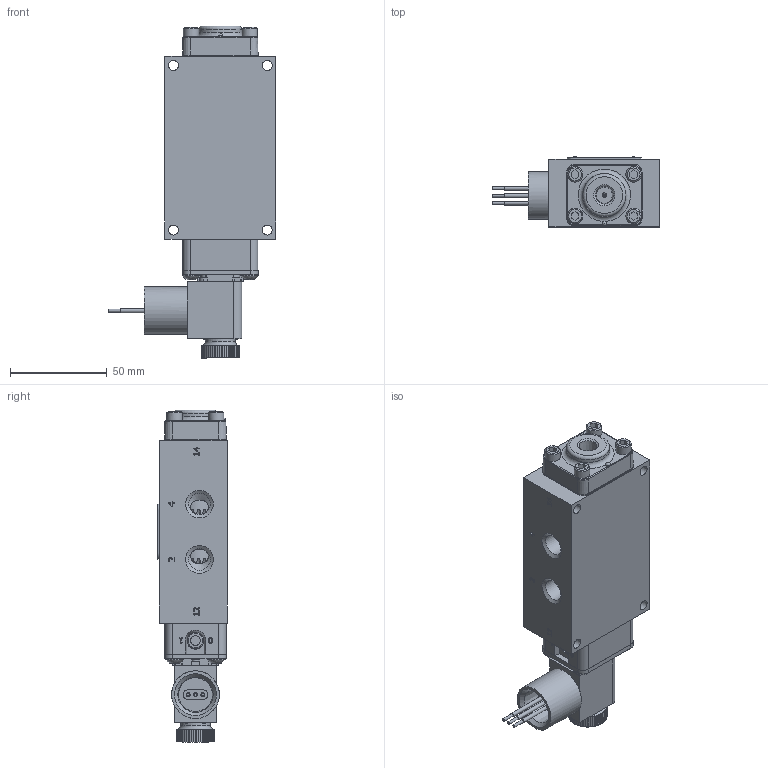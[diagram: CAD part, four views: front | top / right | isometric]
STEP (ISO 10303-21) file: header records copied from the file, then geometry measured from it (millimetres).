
FILE_DESCRIPTION(/* description */ (''),/* implementation_level */ '2;1');
FILE_NAME(/* name */ 'D:\Website Files\stp\Valves\Standard\ESR\ESR2JL.stp',/* time_stamp */ '2016-05-03T17:08:42-04:00',/* author */ ('RMcKenna'),/* organization */ (''),/* preprocessor_version */ 'ST-DEVELOPER v15.6',/* originating_system */ 'Autodesk Inventor 2015',/* authorisation */ '');
FILE_SCHEMA (('AUTOMOTIVE_DESIGN { 1 0 10303 214 3 1 1 }'));
Products named in the file (1): Part17
Bounding box: 86.4 x 36.27 x 171.22 mm (x, y, z)
Volume: 217391 mm3; surface area: 70067.5 mm2
Topology: 2 solids, 30 shells, 1782 faces, 4451 edges, 2850 vertices
Faces by surface type: plane 858, cylinder 419, cone 264, torus 119, bspline 115, sphere 7
Full cylindrical faces by diameter (mm): 1.016 x1, 1.3 x1, 1.397 x1, 1.5 x1, 1.524 x3, 2.007 x2, 2.032 x7, 2.07 x2, 2.261 x2, 2.35 x4, 2.362 x2, 2.381 x2, 2.778 x2, 2.8 x1, 2.819 x1, 3 x4, 3.048 x2, 3.175 x1, 3.4 x1, 3.683 x11, 3.912 x3, 4.191 x2, 4.394 x1, 4.826 x8, 4.953 x1, 5.15 x4, 5.156 x12, 5.5 x1, 6.553 x1, 7.315 x1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
Entity records: 56451 total; most frequent: CARTESIAN_POINT 14392, ORIENTED_EDGE 8128, DIRECTION 8105, EDGE_CURVE 4062, AXIS2_PLACEMENT_3D 3019, VERTEX_POINT 2728, EDGE_LOOP 2224, LINE 2067
